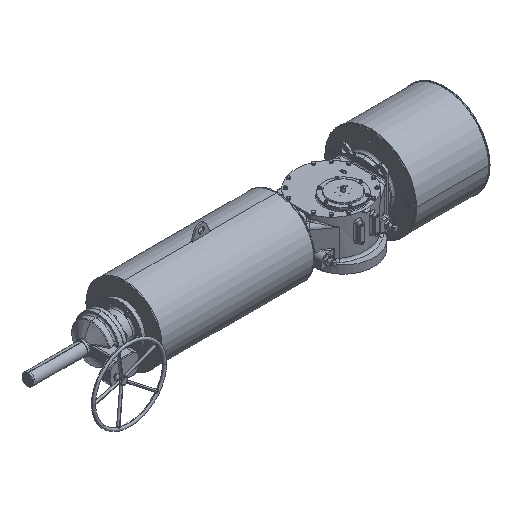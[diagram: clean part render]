
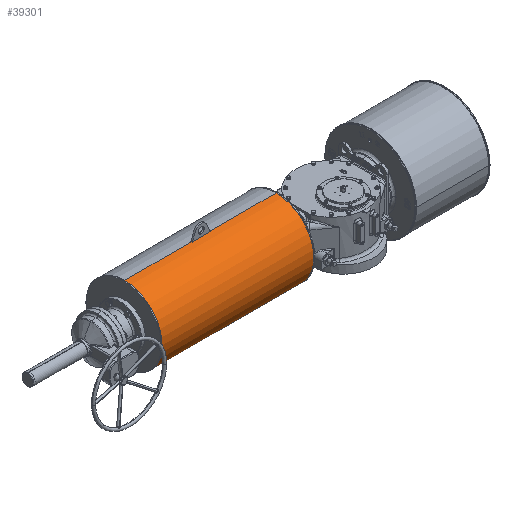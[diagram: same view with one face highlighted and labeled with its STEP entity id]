
A CAD part, isometric view. The second image highlights one B-rep face of the part: STEP entity #39301.
In plain terms, the highlighted cylindrical face has radius 254 mm (diameter 508 mm), a partial arc.
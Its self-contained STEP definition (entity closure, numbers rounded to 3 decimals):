
#1938 = CARTESIAN_POINT ( 'NONE',  ( -887.5, 135., 366.951 ) ) ;
#3403 = EDGE_LOOP ( 'NONE', ( #33721, #104463, #7870, #14217, #56669, #48288, #44919, #41302, #64477, #63987 ) ) ;
#4630 = CARTESIAN_POINT ( 'NONE',  ( -317.5, 140., 113. ) ) ;
#7300 = VERTEX_POINT ( 'NONE', #42558 ) ;
#7870 = ORIENTED_EDGE ( 'NONE', *, *, #60719, .T. ) ;
#12501 = CARTESIAN_POINT ( 'NONE',  ( -1340.5, -114., 113. ) ) ;
#12615 = VECTOR ( 'NONE', #12708, 1000. ) ;
#12708 = DIRECTION ( 'NONE',  ( 1., 0., 0. ) ) ;
#13239 = CIRCLE ( 'NONE', #30727, 254. ) ;
#14217 = ORIENTED_EDGE ( 'NONE', *, *, #87853, .T. ) ;
#15940 = AXIS2_PLACEMENT_3D ( 'NONE', #87037, #54797, #29057 ) ;
#16430 = AXIS2_PLACEMENT_3D ( 'NONE', #83807, #66875, #34031 ) ;
#16839 = EDGE_CURVE ( 'NONE', #7300, #34471, #24663, .T. ) ;
#16888 = VERTEX_POINT ( 'NONE', #72768 ) ;
#17939 = CARTESIAN_POINT ( 'NONE',  ( -1340.5, 140., 113. ) ) ;
#18206 = CIRCLE ( 'NONE', #16430, 254. ) ;
#18459 = VERTEX_POINT ( 'NONE', #52197 ) ;
#21128 = CIRCLE ( 'NONE', #31587, 254. ) ;
#22871 = CIRCLE ( 'NONE', #38677, 254. ) ;
#24480 = EDGE_CURVE ( 'NONE', #7300, #59871, #107480, .T. ) ;
#24663 = CIRCLE ( 'NONE', #15940, 254. ) ;
#25550 = CARTESIAN_POINT ( 'NONE',  ( -314.5, -114., 113. ) ) ;
#25759 = VERTEX_POINT ( 'NONE', #78524 ) ;
#27435 = DIRECTION ( 'NONE',  ( 0., 0., -1. ) ) ;
#29057 = DIRECTION ( 'NONE',  ( 0., 0., -1. ) ) ;
#29604 = DIRECTION ( 'NONE',  ( 0., 0., -1. ) ) ;
#30727 = AXIS2_PLACEMENT_3D ( 'NONE', #17939, #32748, #34378 ) ;
#31587 = AXIS2_PLACEMENT_3D ( 'NONE', #43300, #60804, #101253 ) ;
#32748 = DIRECTION ( 'NONE',  ( 1., 0., 0. ) ) ;
#33721 = ORIENTED_EDGE ( 'NONE', *, *, #16839, .T. ) ;
#34031 = DIRECTION ( 'NONE',  ( 0., 0., 1. ) ) ;
#34239 = VECTOR ( 'NONE', #64952, 1000. ) ;
#34378 = DIRECTION ( 'NONE',  ( 0., 0., -1. ) ) ;
#34471 = VERTEX_POINT ( 'NONE', #25550 ) ;
#35682 = CARTESIAN_POINT ( 'NONE',  ( -767.5, 140., 113. ) ) ;
#36216 = VECTOR ( 'NONE', #73907, 1000. ) ;
#36744 = CARTESIAN_POINT ( 'NONE',  ( -314.5, 140., 113. ) ) ;
#36755 = DIRECTION ( 'NONE',  ( 1., 0., 0. ) ) ;
#38294 = EDGE_CURVE ( 'NONE', #39101, #25759, #18206, .T. ) ;
#38677 = AXIS2_PLACEMENT_3D ( 'NONE', #36744, #71175, #29604 ) ;
#39101 = VERTEX_POINT ( 'NONE', #1938 ) ;
#39301 = ADVANCED_FACE ( 'NONE', ( #53883 ), #69741, .T. ) ;
#40566 = CARTESIAN_POINT ( 'NONE',  ( -317.5, 140., 367. ) ) ;
#41302 = ORIENTED_EDGE ( 'NONE', *, *, #45567, .T. ) ;
#42558 = CARTESIAN_POINT ( 'NONE',  ( -314.5, 140., -141. ) ) ;
#43300 = CARTESIAN_POINT ( 'NONE',  ( -1340.5, 140., 113. ) ) ;
#44590 = DIRECTION ( 'NONE',  ( -1., 0., 0. ) ) ;
#44919 = ORIENTED_EDGE ( 'NONE', *, *, #50426, .T. ) ;
#45567 = EDGE_CURVE ( 'NONE', #18459, #81103, #13239, .T. ) ;
#46171 = CARTESIAN_POINT ( 'NONE',  ( -767.5, 135., 366.951 ) ) ;
#47478 = AXIS2_PLACEMENT_3D ( 'NONE', #35682, #36755, #27435 ) ;
#48288 = ORIENTED_EDGE ( 'NONE', *, *, #38294, .T. ) ;
#50426 = EDGE_CURVE ( 'NONE', #25759, #18459, #89718, .T. ) ;
#52197 = CARTESIAN_POINT ( 'NONE',  ( -1340.5, 140., 367. ) ) ;
#52815 = DIRECTION ( 'NONE',  ( 0., 0., -1. ) ) ;
#53883 = FACE_OUTER_BOUND ( 'NONE', #3403, .T. ) ;
#54797 = DIRECTION ( 'NONE',  ( -1., 0., 0. ) ) ;
#55531 = EDGE_CURVE ( 'NONE', #39101, #65631, #104534, .T. ) ;
#56669 = ORIENTED_EDGE ( 'NONE', *, *, #55531, .F. ) ;
#56719 = CARTESIAN_POINT ( 'NONE',  ( -317.5, 140., -141. ) ) ;
#57476 = CARTESIAN_POINT ( 'NONE',  ( -317.5, 140., 367. ) ) ;
#59871 = VERTEX_POINT ( 'NONE', #102687 ) ;
#60719 = EDGE_CURVE ( 'NONE', #16888, #77984, #90268, .T. ) ;
#60804 = DIRECTION ( 'NONE',  ( 1., 0., 0. ) ) ;
#63987 = ORIENTED_EDGE ( 'NONE', *, *, #24480, .F. ) ;
#64477 = ORIENTED_EDGE ( 'NONE', *, *, #66478, .T. ) ;
#64952 = DIRECTION ( 'NONE',  ( -1., 0., 0. ) ) ;
#65631 = VERTEX_POINT ( 'NONE', #46171 ) ;
#66478 = EDGE_CURVE ( 'NONE', #81103, #59871, #21128, .T. ) ;
#66875 = DIRECTION ( 'NONE',  ( -1., 0., 0. ) ) ;
#69741 = CYLINDRICAL_SURFACE ( 'NONE', #89106, 254. ) ;
#71175 = DIRECTION ( 'NONE',  ( -1., 0., 0. ) ) ;
#71202 = CARTESIAN_POINT ( 'NONE',  ( -317.5, 135., 366.951 ) ) ;
#72768 = CARTESIAN_POINT ( 'NONE',  ( -314.5, 140., 367. ) ) ;
#73907 = DIRECTION ( 'NONE',  ( -1., 0., 0. ) ) ;
#77984 = VERTEX_POINT ( 'NONE', #89733 ) ;
#78524 = CARTESIAN_POINT ( 'NONE',  ( -887.5, 140., 367. ) ) ;
#81103 = VERTEX_POINT ( 'NONE', #12501 ) ;
#83807 = CARTESIAN_POINT ( 'NONE',  ( -887.5, 140., 113. ) ) ;
#87037 = CARTESIAN_POINT ( 'NONE',  ( -314.5, 140., 113. ) ) ;
#87853 = EDGE_CURVE ( 'NONE', #77984, #65631, #105067, .T. ) ;
#89106 = AXIS2_PLACEMENT_3D ( 'NONE', #4630, #44590, #52815 ) ;
#89718 = LINE ( 'NONE', #57476, #104626 ) ;
#89733 = CARTESIAN_POINT ( 'NONE',  ( -767.5, 140., 367. ) ) ;
#90268 = LINE ( 'NONE', #40566, #36216 ) ;
#98998 = DIRECTION ( 'NONE',  ( -1., 0., 0. ) ) ;
#101253 = DIRECTION ( 'NONE',  ( 0., 0., -1. ) ) ;
#102687 = CARTESIAN_POINT ( 'NONE',  ( -1340.5, 140., -141. ) ) ;
#104139 = EDGE_CURVE ( 'NONE', #34471, #16888, #22871, .T. ) ;
#104463 = ORIENTED_EDGE ( 'NONE', *, *, #104139, .T. ) ;
#104534 = LINE ( 'NONE', #71202, #12615 ) ;
#104626 = VECTOR ( 'NONE', #98998, 1000. ) ;
#105067 = CIRCLE ( 'NONE', #47478, 254. ) ;
#107480 = LINE ( 'NONE', #56719, #34239 ) ;
